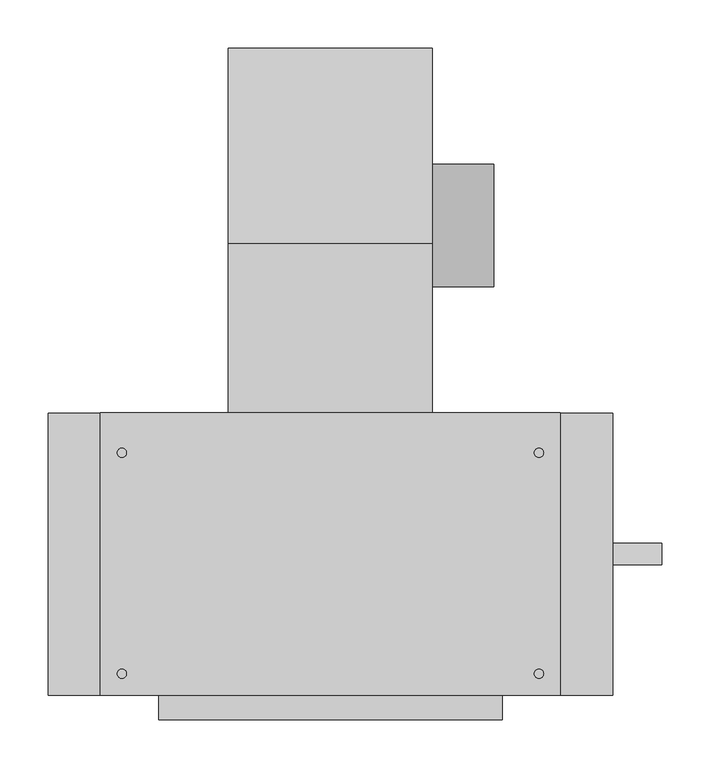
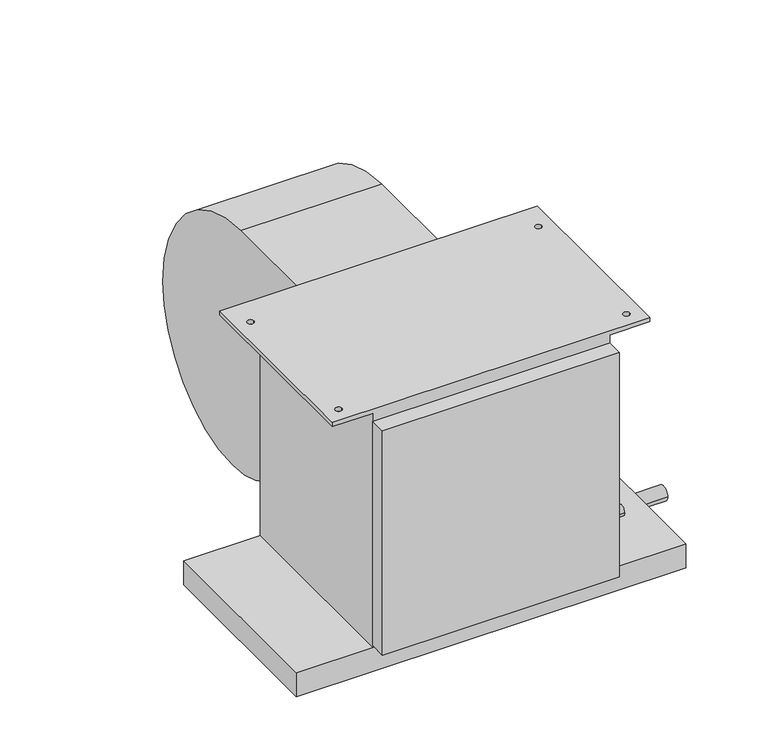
"""IFC4 building model written with IfcOpenShell, lengths in millimetres: proxy geometry, Concealed_High_Capacity_Horizontal_Fan_Coil_Unit_-_42DAA_-_CARRIER_-_4-Pipe_RH_2022 : Size 06 - 277v/60Hz/1Ph - 6/2 Coil."""

import ifcopenshell
import ifcopenshell.guid

model = None  # the IFC model being written
_history = None  # IfcOwnerHistory: only IFC2X3 demands one
_inside = {}  # id of a spatial element -> (the spatial element, [elements in it])
_under = {}  # id of a project, library or spatial element -> (it, [spatial elements below it])
_declared = {}  # id of a project -> (the project, [libraries it declares])
_typed = {}  # id of a type object -> (the type object, [elements of that type])
_made_of = {}  # id of a material, layer set ... -> (it, [elements and type objects made of it])


def new_model(schema):
    """Start an empty IFC model of exactly this schema.

    Asked for "IFC4X3", IfcOpenShell would pick the latest addendum, in which some entities
    have other attributes; the version numbers below select the first issue.
    IFC2X3 requires an IfcOwnerHistory on every rooted entity: one is made here for all.
    """
    global model, _history
    if schema == "IFC4X3":
        model = ifcopenshell.file(schema_version=(4, 3, 0, 0))
    else:
        model = ifcopenshell.file(schema=schema)
    _inside.clear()
    _under.clear()
    _declared.clear()
    _typed.clear()
    _made_of.clear()
    _history = None
    if model.schema == "IFC2X3":
        org = make("IfcOrganization", Name="unknown")
        user = make(
            "IfcPersonAndOrganization",
            ThePerson=make("IfcPerson", FamilyName="unknown"),
            TheOrganization=org,
        )
        app = make(
            "IfcApplication",
            ApplicationDeveloper=org,
            Version="unknown",
            ApplicationFullName="unknown",
            ApplicationIdentifier="unknown",
        )
        _history = make(
            "IfcOwnerHistory",
            OwningUser=user,
            OwningApplication=app,
            ChangeAction="ADDED",
            CreationDate=0,
        )
    return model


def make(cls, **values):
    """One entity of the class cls with the attributes given. An attribute that is None is left unset."""
    return model.create_entity(
        cls, **{name: value for name, value in values.items() if value is not None}
    )


def rooted(cls, **values):
    """An entity with a GlobalId (a new one), such as an element, a storey or a relation."""
    return make(cls, GlobalId=ifcopenshell.guid.new(), OwnerHistory=_history, **values)


def si_unit(unit_type, name, prefix=None):
    """IfcSIUnit, for example si_unit("LENGTHUNIT", "METRE", prefix="MILLI")."""
    return make("IfcSIUnit", UnitType=unit_type, Prefix=prefix, Name=name)


def assignment(units):
    """IfcUnitAssignment: the units of a project."""
    return None if units is None else make("IfcUnitAssignment", Units=units)


def point(xyz):
    """IfcCartesianPoint."""
    return None if xyz is None else make("IfcCartesianPoint", Coordinates=xyz)


def direction(xyz):
    """IfcDirection."""
    return None if xyz is None else make("IfcDirection", DirectionRatios=xyz)


def frame(location, z_axis=None, x_axis=None):
    """IfcAxis2Placement3D, a coordinate frame: its origin and axes. An axis left out is left unset."""
    return make(
        "IfcAxis2Placement3D",
        Location=point(location),
        Axis=direction(z_axis),
        RefDirection=direction(x_axis),
    )


def frame_2d(location, x_axis=None):
    """IfcAxis2Placement2D, a coordinate frame in the plane: its origin and x axis."""
    return make(
        "IfcAxis2Placement2D", Location=point(location), RefDirection=direction(x_axis)
    )


def origin():
    """The frame at (0, 0, 0) with its axes left unset."""
    return frame((0.0, 0.0, 0.0))


def place(relative_to, where):
    """IfcLocalPlacement: puts the frame where relative to a parent placement (None: the world)."""
    return make(
        "IfcLocalPlacement", PlacementRelTo=relative_to, RelativePlacement=where
    )


def context(
    kind, dimensions, precision=None, world=None, true_north=None, identifier=None
):
    """IfcGeometricRepresentationContext, for example the 3D "Model" context."""
    return make(
        "IfcGeometricRepresentationContext",
        ContextIdentifier=identifier,
        ContextType=kind,
        CoordinateSpaceDimension=dimensions,
        Precision=precision,
        WorldCoordinateSystem=world,
        TrueNorth=true_north,
    )


def project(units=None, contexts=None):
    """IfcProject with its units and contexts."""
    return rooted(
        "IfcProject",
        Name="project",
        RepresentationContexts=contexts,
        UnitsInContext=assignment(units),
    )


def spatial(cls, under=None, at=None, **own):
    """A site, building, storey or space (cls), placed at a placement, below another one or the project."""
    s = rooted(cls, ObjectPlacement=at, **own)
    if under is not None:
        _under.setdefault(under.id(), (under, []))[1].append(s)
    return s


def polyline(points):
    """IfcPolyline through the points."""
    return make("IfcPolyline", Points=[point(p) for p in points])


def circle_curve(where, radius):
    """IfcCircle in the frame where."""
    return make("IfcCircle", Position=where, Radius=radius)


def trimmed(basis, trim1, trim2, sense, master):
    """IfcTrimmedCurve: the piece of a basis curve between two trims."""
    return make(
        "IfcTrimmedCurve",
        BasisCurve=basis,
        Trim1=trim1,
        Trim2=trim2,
        SenseAgreement=sense,
        MasterRepresentation=master,
    )


def segment(curve, same_sense, transition):
    """IfcCompositeCurveSegment."""
    return make(
        "IfcCompositeCurveSegment",
        Transition=transition,
        SameSense=same_sense,
        ParentCurve=curve,
    )


def composite_curve(segments, self_intersect=None):
    """IfcCompositeCurve: segments joined end to end."""
    return make("IfcCompositeCurve", Segments=segments, SelfIntersect=self_intersect)


def outline(outer, holes=None, kind="AREA"):
    """IfcArbitraryClosedProfileDef: a profile drawn as a closed curve; with holes, ...WithVoids."""
    if holes is None:
        return make("IfcArbitraryClosedProfileDef", ProfileType=kind, OuterCurve=outer)
    return make(
        "IfcArbitraryProfileDefWithVoids",
        ProfileType=kind,
        OuterCurve=outer,
        InnerCurves=holes,
    )


def extrude(swept, where, along, depth):
    """IfcExtrudedAreaSolid: the profile swept, set in the frame where, extruded along a direction by depth."""
    return make(
        "IfcExtrudedAreaSolid",
        SweptArea=swept,
        Position=where,
        ExtrudedDirection=direction(along),
        Depth=depth,
    )


def shape(context_of_items, identifier, shape_type, items):
    """IfcShapeRepresentation: the items that make up one representation, for example the "Body"."""
    return make(
        "IfcShapeRepresentation",
        ContextOfItems=context_of_items,
        RepresentationIdentifier=identifier,
        RepresentationType=shape_type,
        Items=items,
    )


def source(mapping_origin, context_of_items, identifier, shape_type, items):
    """IfcRepresentationMap: a shape defined once, which mapped items show again and again."""
    return make(
        "IfcRepresentationMap",
        MappingOrigin=mapping_origin,
        MappedRepresentation=shape(context_of_items, identifier, shape_type, items),
    )


def transform(
    local_origin,
    x_axis=None,
    y_axis=None,
    z_axis=None,
    scale=None,
    scale2=None,
    scale3=None,
    uniform=True,
):
    """IfcCartesianTransformationOperator3D, or its non-uniform kind. x_axis, y_axis, z_axis: its Axis1, 2, 3."""
    if uniform:
        return make(
            "IfcCartesianTransformationOperator3D",
            Axis1=direction(x_axis),
            Axis2=direction(y_axis),
            LocalOrigin=point(local_origin),
            Scale=scale,
            Axis3=direction(z_axis),
        )
    return make(
        "IfcCartesianTransformationOperator3DnonUniform",
        Axis1=direction(x_axis),
        Axis2=direction(y_axis),
        LocalOrigin=point(local_origin),
        Scale=scale,
        Axis3=direction(z_axis),
        Scale2=scale2,
        Scale3=scale3,
    )


def mapped(mapping_source, mapping_target):
    """IfcMappedItem: shows the shape of a source again, moved by a transform."""
    return make(
        "IfcMappedItem", MappingSource=mapping_source, MappingTarget=mapping_target
    )


def made_of(thing, what):
    """Note that an element or type object is made of a material, layer set ...; save() writes the relation."""
    if what is not None:
        _made_of.setdefault(what.id(), (what, []))[1].append(thing)
    return thing


def element(
    cls,
    number,
    at=None,
    inside=None,
    cuts=None,
    type_object=None,
    material=None,
    context=None,
    identifier="Body",
    shape_type=None,
    held_by="IfcProductDefinitionShape",
    body=None,
    shapes=None,
    **own,
):
    """One element of the class cls, such as IfcWall. Its Tag is "e" and its number.

    at: its placement. inside: the storey or other place that contains it. cuts: it is an
    opening in that element (IfcRelVoidsElement). A single representation is given by context,
    identifier, shape_type and body (its items); several are given by shapes. held_by: the class
    of the entity that holds the representations. save() writes the other relations.
    """
    e = rooted(cls, Tag="e%d" % number, ObjectPlacement=at, **own)
    if body is not None:
        shapes = [shape(context, identifier, shape_type, body)]
    if shapes is not None:
        e.Representation = make(held_by, Representations=shapes)
    if inside is not None:
        _inside.setdefault(inside.id(), (inside, []))[1].append(e)
    if cuts is not None:
        rooted(
            "IfcRelVoidsElement", RelatingBuildingElement=cuts, RelatedOpeningElement=e
        )
    if type_object is not None:
        _typed.setdefault(type_object.id(), (type_object, []))[1].append(e)
    return made_of(e, material)


def aggregate(whole, parts):
    """IfcRelAggregates: a whole, such as a stair, and the parts it consists of."""
    return rooted("IfcRelAggregates", RelatingObject=whole, RelatedObjects=parts)


def save(model, path):
    """Write the relations noted so far, then the file.

    IfcRelAggregates (storeys below a building ...), IfcRelContainedInSpatialStructure (elements
    in a storey), IfcRelDefinesByType, IfcRelAssociatesMaterial and IfcRelDeclares: one each for
    every whole, place, type object, material and project.
    """
    for whole, parts in _under.values():
        aggregate(whole, parts)
    for where, things in _inside.values():
        rooted(
            "IfcRelContainedInSpatialStructure",
            RelatedElements=things,
            RelatingStructure=where,
        )
    for kind, things in _typed.values():
        rooted("IfcRelDefinesByType", RelatedObjects=things, RelatingType=kind)
    for what, things in _made_of.values():
        rooted("IfcRelAssociatesMaterial", RelatedObjects=things, RelatingMaterial=what)
    for by, libraries in _declared.values():
        rooted("IfcRelDeclares", RelatingContext=by, RelatedDefinitions=libraries)
    model.write(path)


def plane_surface(at):
    """IfcPlane: the flat surface through the origin of the frame at, square to its z axis."""
    return make("IfcPlane", Position=at)


def cylinder_surface(at, radius):
    """IfcCylindricalSurface: all points at the distance radius from the z axis of the frame at."""
    return make("IfcCylindricalSurface", Position=at, Radius=radius)


def revolved_surface(curve, axis_point, axis_direction):
    """IfcSurfaceOfRevolution: the curve turned about the line through axis_point along axis_direction."""
    return make(
        "IfcSurfaceOfRevolution",
        SweptCurve=make("IfcArbitraryOpenProfileDef", ProfileType="CURVE", Curve=curve),
        AxisPosition=make("IfcAxis1Placement", Location=point(axis_point), Axis=direction(axis_direction)),
    )


def advanced_brep(points, edges, surfaces, faces):
    """IfcAdvancedBrep: a solid bounded by faces that lie on surfaces and meet in shared edges.

    An edge is (start, end): straight between two places in points (the first is 0);
    or (start, end, curve); or (start, end, curve, False) where it runs against its curve.
    A face is (place in surfaces, loops), or (place, loops, False) where it looks against
    its surface's normal. A loop lists edges by number (the first is 1), with a minus sign
    where the edge is run from its end to its start. The first loop is the outer one.
    """
    corners = [point(p) for p in points]
    vertices = [make("IfcVertexPoint", VertexGeometry=c) for c in corners]
    made = []
    for start, end, *more in edges:
        made.append(
            make(
                "IfcEdgeCurve",
                EdgeStart=vertices[start],
                EdgeEnd=vertices[end],
                EdgeGeometry=more[0] if more else make("IfcPolyline", Points=[corners[start], corners[end]]),
                SameSense=more[1] if len(more) > 1 else True,
            )
        )
    hull = []
    for where, loops, *sense in faces:
        bounds = []
        for j, loop in enumerate(loops):
            ring = [make("IfcOrientedEdge", EdgeElement=made[abs(k) - 1], Orientation=k > 0) for k in loop]
            bounds.append(
                make(
                    "IfcFaceOuterBound" if j == 0 else "IfcFaceBound",
                    Bound=make("IfcEdgeLoop", EdgeList=ring),
                    Orientation=True,
                )
            )
        hull.append(make("IfcAdvancedFace", Bounds=bounds, FaceSurface=surfaces[where], SameSense=sense[0] if sense else True))
    return make("IfcAdvancedBrep", Outer=make("IfcClosedShell", CfsFaces=hull))


def mechanical_equipment_327c370d(model_context):
    return source(origin(), model_context, "Body", "SolidModel", [
        extrude(outline(composite_curve([segment(trimmed(circle_curve(frame_2d((117.8757598, -213.2397468)), 63.5), [point((181.3757598, -213.2397468))], [point((54.3757598, -213.2397468))], False, "CARTESIAN"), True, "CONTINUOUS"), segment(trimmed(circle_curve(frame_2d((117.8757598, -213.2397468)), 63.5), [point((54.3757598, -213.2397468))], [point((181.3757598, -213.2397468))], False, "CARTESIAN"), True, "CONTINUOUS")], self_intersect=False)), frame((384.937, 0.0, 0.0), z_axis=(1.0, 0.0, 0.0), x_axis=(0.0, 1.0, 0.0)), (0.0, 0.0, 1.0), 63.5),
        advanced_brep(
        [(173.863, 301.3905957, -228.379602), (173.863, 120.4976, -409.99664), (173.863, -35.0266, -283.45638), (173.863, -76.2, -283.45638), (173.863, -76.2, -25.4), (173.863, 98.8830093, -25.4), (384.937, 301.3905957, -228.379602), (384.937, 98.8830093, -25.4), (384.937, -76.2, -25.4), (384.937, -76.2, -283.45638), (384.937, -35.0266, -283.45638), (384.937, 120.497599, -409.9957839)],
        [
            (0, 1, circle_curve(frame((173.863, 120.31726, -228.92258), z_axis=(-1.0, 0.0, 0.0), x_axis=(0.0, -1.0, 0.0)), 181.0741498)),
            (1, 2, circle_curve(frame((173.863, 120.31726, -251.37364), z_axis=(-1.0, 0.0, 0.0), x_axis=(0.0, -1.0, 0.0)), 158.6222464)),
            (2, 3),
            (3, 4),
            (4, 5),
            (5, 0, circle_curve(frame((173.863, 97.8662, -228.92258), z_axis=(-1.0, 0.0, 0.0), x_axis=(0.0, -1.0, 0.0)), 203.52512)),
            (6, 7, circle_curve(frame((384.937, 97.8662, -228.92258), z_axis=(1.0, 0.0, 0.0), x_axis=(0.0, -1.0, 0.0)), 203.52512)),
            (7, 8),
            (8, 9),
            (9, 10),
            (10, 11, circle_curve(frame((384.937, 120.31726, -251.37364), z_axis=(1.0, 0.0, 0.0), x_axis=(0.0, -1.0, 0.0)), 158.6222464)),
            (11, 6, circle_curve(frame((384.937, 120.31726, -228.92258), z_axis=(1.0, 0.0, 0.0), x_axis=(0.0, -1.0, 0.0)), 181.0741498)),
            (0, 6),
            (11, 1),
            (10, 2),
            (9, 3),
            (8, 4),
            (7, 5),
        ],
        [
            plane_surface(frame((173.863, -60.7568898, -228.92258), z_axis=(-1.0, 0.0, 0.0), x_axis=(0.0, 0.0, 1.0))),
            plane_surface(frame((384.937, -60.7568898, -228.92258), z_axis=(1.0, 0.0, 0.0), x_axis=(0.0, 0.0, -1.0))),
            cylinder_surface(frame((384.937, 120.31726, -228.92258), z_axis=(-1.0, 0.0, 0.0), x_axis=(0.0, -1.0, 0.0)), 181.0741498),
            cylinder_surface(frame((384.937, 120.31726, -251.37364), z_axis=(-1.0, 0.0, 0.0), x_axis=(0.0, -1.0, 0.0)), 158.6222464),
            plane_surface(frame((173.863, -35.0266, -283.45638), z_axis=(0.0, 0.0, -1.0), x_axis=(1.0, 0.0, 0.0))),
            plane_surface(frame((173.863, -76.2, -283.45638), z_axis=(0.0, -1.0, 0.0), x_axis=(1.0, 0.0, 0.0))),
            plane_surface(frame((173.863, -76.2, -25.4), z_axis=(0.0, 0.0, 1.0), x_axis=(1.0, 0.0, 0.0))),
            cylinder_surface(frame((384.937, 97.8662, -228.92258), z_axis=(-1.0, 0.0, 0.0), x_axis=(0.0, -1.0, 0.0)), 203.52512),
        ],
        [
            (0, [[1, 2, 3, 4, 5, 6]]),
            (1, [[7, 8, 9, 10, 11, 12]]),
            (2, [[-1, 13, -12, 14]]),
            (3, [[-2, -14, -11, 15]]),
            (4, [[-3, -15, -10, 16]]),
            (5, [[-4, -16, -9, 17]]),
            (6, [[-5, -17, -8, 18]]),
            (7, [[-6, -18, -7, -13]]),
        ],
    ),
        extrude(outline(polyline([(571.5, -76.2), (571.5, -368.3), (-12.7, -368.3), (-12.7, -76.2), (571.5, -76.2)])), frame((0.0, 0.0, -415.925), z_axis=(0.0, 0.0, 1.0), x_axis=(1.0, 0.0, 0.0)), (0.0, 0.0, 1.0), 38.1),
        extrude(outline(polyline([(457.2, -393.7), (101.6, -393.7), (101.6, -368.3), (457.2, -368.3), (457.2, -393.7)])), frame((0.0, 0.0, -374.65), z_axis=(0.0, 0.0, 1.0), x_axis=(1.0, 0.0, 0.0)), (0.0, 0.0, 1.0), 355.6),
        extrude(outline(composite_curve([segment(trimmed(circle_curve(frame_2d((-222.25, -403.225)), 11.1125), [point((-233.3625, -403.225))], [point((-211.1375, -403.225))], False, "CARTESIAN"), True, "CONTINUOUS"), segment(trimmed(circle_curve(frame_2d((-222.25, -403.225)), 11.1125), [point((-211.1375, -403.225))], [point((-233.3625, -403.225))], False, "CARTESIAN"), True, "CONTINUOUS")], self_intersect=False)), frame((571.5, 0.0, 0.0), z_axis=(1.0, 0.0, 0.0), x_axis=(0.0, 1.0, 0.0)), (0.0, 0.0, 1.0), 50.8),
        extrude(outline(composite_curve([segment(trimmed(circle_curve(frame_2d((-187.325, -122.2375)), 11.1125), [point((-176.2125, -122.2375))], [point((-198.4375, -122.2375))], False, "CARTESIAN"), True, "CONTINUOUS"), segment(trimmed(circle_curve(frame_2d((-187.325, -122.2375)), 11.1125), [point((-198.4375, -122.2375))], [point((-176.2125, -122.2375))], False, "CARTESIAN"), True, "CONTINUOUS")], self_intersect=False)), frame((457.2, 0.0, 0.0), z_axis=(1.0, 0.0, 0.0), x_axis=(0.0, 1.0, 0.0)), (0.0, 0.0, 1.0), 50.8),
        extrude(outline(composite_curve([segment(trimmed(circle_curve(frame_2d((-269.875, -265.1125)), 11.1125), [point((-258.7625, -265.1125))], [point((-280.9875, -265.1125))], False, "CARTESIAN"), True, "CONTINUOUS"), segment(trimmed(circle_curve(frame_2d((-269.875, -265.1125)), 11.1125), [point((-280.9875, -265.1125))], [point((-258.7625, -265.1125))], False, "CARTESIAN"), True, "CONTINUOUS")], self_intersect=False)), frame((457.2, 0.0, 0.0), z_axis=(1.0, 0.0, 0.0), x_axis=(0.0, 1.0, 0.0)), (0.0, 0.0, 1.0), 50.8),
        extrude(outline(composite_curve([segment(trimmed(circle_curve(frame_2d((-311.15, -19.05)), 7.9375), [point((-303.2125, -19.05))], [point((-319.0875, -19.05))], False, "CARTESIAN"), True, "CONTINUOUS"), segment(trimmed(circle_curve(frame_2d((-311.15, -19.05)), 7.9375), [point((-319.0875, -19.05))], [point((-303.2125, -19.05))], False, "CARTESIAN"), True, "CONTINUOUS")], self_intersect=False)), frame((457.2, 0.0, 0.0), z_axis=(1.0, 0.0, 0.0), x_axis=(0.0, 1.0, 0.0)), (0.0, 0.0, 1.0), 50.8),
        extrude(outline(composite_curve([segment(trimmed(circle_curve(frame_2d((-311.15, -336.55)), 7.9375), [point((-303.2125, -336.55))], [point((-319.0875, -336.55))], False, "CARTESIAN"), True, "CONTINUOUS"), segment(trimmed(circle_curve(frame_2d((-311.15, -336.55)), 7.9375), [point((-319.0875, -336.55))], [point((-303.2125, -336.55))], False, "CARTESIAN"), True, "CONTINUOUS")], self_intersect=False)), frame((457.2, 0.0, 0.0), z_axis=(1.0, 0.0, 0.0), x_axis=(0.0, 1.0, 0.0)), (0.0, 0.0, 1.0), 50.8),
        advanced_brep(
        [(457.2, -76.2, -377.825), (457.2, -368.3, -377.825), (101.6, -368.3, -377.825), (101.6, -76.2, -377.825), (101.6, -368.3, -6.35), (101.6, -76.2, -6.35), (457.2, -76.2, -6.35), (457.2, -368.3, -6.35), (41.275, -76.2, 0.0), (41.275, -368.3, 0.0), (517.525, -368.3, 0.0), (517.525, -76.2, 0.0), (68.2625, -117.475, 0.0), (58.7375, -117.475, 0.0), (68.2625, -346.075, 0.0), (58.7375, -346.075, 0.0), (500.0625, -117.475, 0.0), (490.5375, -117.475, 0.0), (500.0625, -346.075, 0.0), (490.5375, -346.075, 0.0), (41.275, -76.2, -6.35), (41.275, -368.3, -6.35), (58.7375, -117.475, -6.35), (68.2625, -117.475, -6.35), (58.7375, -346.075, -6.35), (68.2625, -346.075, -6.35), (517.525, -76.2, -6.35), (517.525, -368.3, -6.35), (490.5375, -117.475, -6.35), (500.0625, -117.475, -6.35), (490.5375, -346.075, -6.35), (500.0625, -346.075, -6.35)],
        [
            (0, 1),
            (1, 2),
            (2, 3),
            (3, 0),
            (2, 4),
            (4, 5),
            (5, 3),
            (0, 6),
            (6, 7),
            (7, 1),
            (8, 9),
            (9, 10),
            (10, 11),
            (11, 8),
            (12, 13, circle_curve(frame((63.5, -117.475, 0.0), z_axis=(0.0, 0.0, -1.0), x_axis=(1.0, 0.0, 0.0)), 4.7625)),
            (13, 12, circle_curve(frame((63.5, -117.475, 0.0), z_axis=(0.0, 0.0, -1.0), x_axis=(1.0, 0.0, 0.0)), 4.7625)),
            (14, 15, circle_curve(frame((63.5, -346.075, 0.0), z_axis=(0.0, 0.0, -1.0), x_axis=(1.0, 0.0, 0.0)), 4.7625)),
            (15, 14, circle_curve(frame((63.5, -346.075, 0.0), z_axis=(0.0, 0.0, -1.0), x_axis=(1.0, 0.0, 0.0)), 4.7625)),
            (16, 17, circle_curve(frame((495.3, -117.475, 0.0), z_axis=(0.0, 0.0, -1.0), x_axis=(1.0, 0.0, 0.0)), 4.7625)),
            (17, 16, circle_curve(frame((495.3, -117.475, 0.0), z_axis=(0.0, 0.0, -1.0), x_axis=(1.0, 0.0, 0.0)), 4.7625)),
            (18, 19, circle_curve(frame((495.3, -346.075, 0.0), z_axis=(0.0, 0.0, -1.0), x_axis=(1.0, 0.0, 0.0)), 4.7625)),
            (19, 18, circle_curve(frame((495.3, -346.075, 0.0), z_axis=(0.0, 0.0, -1.0), x_axis=(1.0, 0.0, 0.0)), 4.7625)),
            (20, 5),
            (4, 21),
            (21, 20),
            (22, 23, circle_curve(frame((63.5, -117.475, -6.35), z_axis=(0.0, 0.0, 1.0), x_axis=(1.0, 0.0, 0.0)), 4.7625)),
            (23, 22, circle_curve(frame((63.5, -117.475, -6.35), z_axis=(0.0, 0.0, 1.0), x_axis=(1.0, 0.0, 0.0)), 4.7625)),
            (24, 25, circle_curve(frame((63.5, -346.075, -6.35), z_axis=(0.0, 0.0, 1.0), x_axis=(1.0, 0.0, 0.0)), 4.7625)),
            (25, 24, circle_curve(frame((63.5, -346.075, -6.35), z_axis=(0.0, 0.0, 1.0), x_axis=(1.0, 0.0, 0.0)), 4.7625)),
            (26, 27),
            (27, 7),
            (6, 26),
            (28, 29, circle_curve(frame((495.3, -117.475, -6.35), z_axis=(0.0, 0.0, 1.0), x_axis=(1.0, 0.0, 0.0)), 4.7625)),
            (29, 28, circle_curve(frame((495.3, -117.475, -6.35), z_axis=(0.0, 0.0, 1.0), x_axis=(1.0, 0.0, 0.0)), 4.7625)),
            (30, 31, circle_curve(frame((495.3, -346.075, -6.35), z_axis=(0.0, 0.0, 1.0), x_axis=(1.0, 0.0, 0.0)), 4.7625)),
            (31, 30, circle_curve(frame((495.3, -346.075, -6.35), z_axis=(0.0, 0.0, 1.0), x_axis=(1.0, 0.0, 0.0)), 4.7625)),
            (8, 20),
            (21, 9),
            (27, 10),
            (11, 26),
            (12, 23),
            (22, 13),
            (14, 25),
            (24, 15),
            (16, 29),
            (28, 17),
            (18, 31),
            (30, 19),
        ],
        [
            plane_surface(frame((101.6, -76.2, -377.825), z_axis=(0.0, 0.0, -1.0), x_axis=(1.0, 0.0, 0.0))),
            plane_surface(frame((101.6, -76.2, 0.0), z_axis=(-1.0, 0.0, 0.0), x_axis=(0.0, 0.0, -1.0))),
            plane_surface(frame((457.2, -368.3, 0.0), z_axis=(1.0, 0.0, 0.0), x_axis=(0.0, 0.0, -1.0))),
            plane_surface(frame((41.275, -76.2, 0.0), z_axis=(0.0, 0.0, 1.0), x_axis=(0.0, -1.0, 0.0))),
            plane_surface(frame((41.275, -76.2, -6.35), z_axis=(0.0, 0.0, -1.0), x_axis=(0.0, 1.0, 0.0))),
            plane_surface(frame((41.275, -76.2, 0.0), z_axis=(-1.0, 0.0, 0.0), x_axis=(0.0, 0.0, -1.0))),
            plane_surface(frame((41.275, -368.3, 0.0), z_axis=(0.0, -1.0, 0.0), x_axis=(0.0, 0.0, -1.0))),
            plane_surface(frame((101.6, -76.2, 0.0), z_axis=(0.0, 1.0, 0.0), x_axis=(0.0, 0.0, -1.0))),
            plane_surface(frame((517.525, -368.3, 0.0), z_axis=(1.0, 0.0, 0.0), x_axis=(0.0, 0.0, -1.0))),
            revolved_surface(polyline([(68.2625, -117.475, 0.0), (68.2625, -117.475, -6.35)]), (63.5, -117.475, -6.35), (0.0, 0.0, 1.0)),
            revolved_surface(polyline([(68.2625, -346.075, 0.0), (68.2625, -346.075, -6.35)]), (63.5, -346.075, 0.0), (0.0, 0.0, 1.0)),
            revolved_surface(polyline([(500.0625, -117.475, 0.0), (500.0625, -117.475, -6.35)]), (495.3, -117.475, 0.0), (0.0, 0.0, 1.0)),
            revolved_surface(polyline([(500.0625, -346.075, 0.0), (500.0625, -346.075, -6.35)]), (495.3, -346.075, 0.0), (0.0, 0.0, 1.0)),
        ],
        [
            (0, [[1, 2, 3, 4]]),
            (1, [[-3, 5, 6, 7]]),
            (2, [[-1, 8, 9, 10]]),
            (3, [[11, 12, 13, 14], [15, 16], [17, 18], [19, 20], [21, 22]]),
            (4, [[23, -6, 24, 25], [26, 27], [28, 29]]),
            (4, [[30, 31, -9, 32], [33, 34], [35, 36]]),
            (5, [[-11, 37, -25, 38]]),
            (6, [[-12, -38, -24, -5, -2, -10, -31, 39]]),
            (7, [[-14, 40, -32, -8, -4, -7, -23, -37]]),
            (8, [[-13, -39, -30, -40]]),
            (9, [[41, -26, 42, -15]]),
            (9, [[-41, -16, -42, -27]]),
            (10, [[43, -28, 44, -17]]),
            (10, [[-43, -18, -44, -29]]),
            (11, [[45, -33, 46, -19]]),
            (11, [[-45, -20, -46, -34]]),
            (12, [[47, -35, 48, -21]]),
            (12, [[-47, -22, -48, -36]]),
        ],
    ),
    ])


if __name__ == "__main__":
    model = new_model("IFC4")
    model_context = context("Model", 3, world=origin())
    ifc_project = project(units=[si_unit("LENGTHUNIT", "METRE", prefix="MILLI")], contexts=[model_context])
    site = spatial("IfcSite", under=ifc_project)
    building = spatial("IfcBuilding", under=site)
    placement = place(None, origin())
    mechanical_equipment_shape = mechanical_equipment_327c370d(model_context)
    element("IfcBuildingElementProxy", 1, Name="Concealed_High_Capacity_Horizontal_Fan_Coil_Unit_-_42DAA_-_CARRIER_-_4-Pipe_RH_2022 : Size 06 - 277v/60Hz/1Ph - 6/2 Coil", ObjectType="Concealed_High_Capacity_Horizontal_Fan_Coil_Unit_-_42DAA_-_CARRIER_-_4-Pipe_RH_2022 : Size 06 - 277v/60Hz/1Ph - 6/2 Coil", at=placement, inside=building, context=model_context, shape_type="MappedRepresentation", body=[
        mapped(mechanical_equipment_shape, transform((0.0, 0.0, 0.0), x_axis=(1.0, 0.0, 0.0), y_axis=(0.0, 1.0, 0.0), z_axis=(0.0, 0.0, 1.0))),
    ])
    save(model, "model.ifc")
